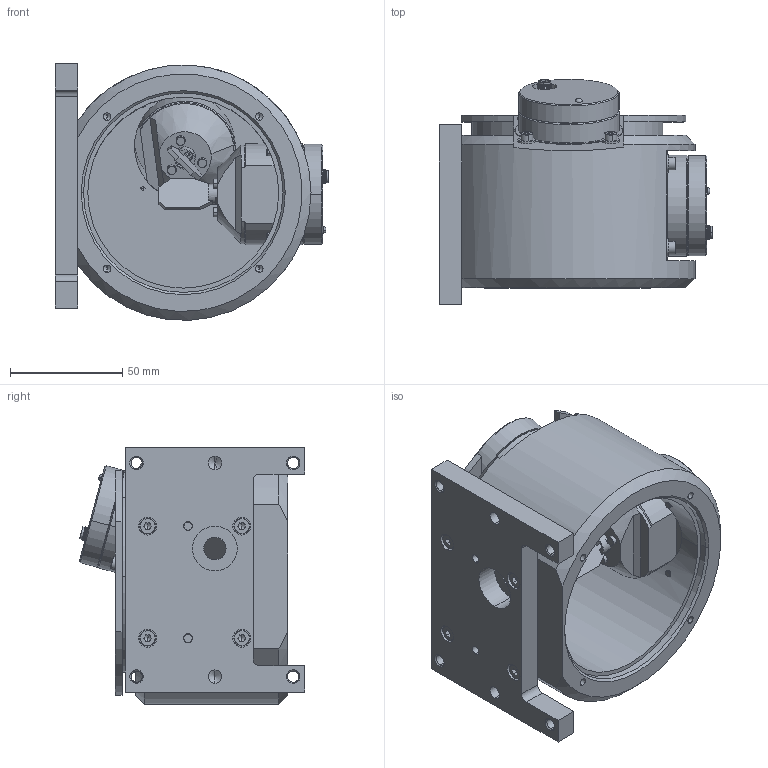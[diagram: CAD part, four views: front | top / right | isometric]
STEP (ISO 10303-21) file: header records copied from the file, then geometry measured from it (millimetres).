
FILE_DESCRIPTION (( 'STEP AP214' ), '1' );
FILE_NAME ('2D_MSA_A10.STEP', '2019-06-06T09:46:32', ( '' ), ( '' ), 'SwSTEP 2.0', 'SolidWorks 2011', '' );
FILE_SCHEMA (( 'AUTOMOTIVE_DESIGN' ));
Length unit declared in the file: millimetre
Products named in the file (14): parallel pin hardened_iso_Parallel Pin ISO 8734 - 4 x 10 - A - St; socket head cap screw_iso_ISO 4762 M3 x 8 --- 8N; plain washer 10673 type snl_iso_ISO 10673-3.2-N; socket head cap screw_iso_ISO 4762 M4 x 12 --- 12C; RTAY_A10; A10_MirrorY; RTAX_A10; socket head cap screw_iso_ISO 4762 M2 x 5 --- 5N; A10_MirrorX; Scanner_Draw06_4; Scanner_Solid; rhothor_montage_plaat_Draw01_3; rhothor_motorblok_A10_Draw02_5; 2D_MSA_A10
Assembly tree (36 placements, depth 3):
  2D_MSA_A10
    socket head cap screw_iso_ISO 4762 M3 x 8 --- 8N  x8
    plain washer 10673 type snl_iso_ISO 10673-3.2-N  x8
    socket head cap screw_iso_ISO 4762 M4 x 12 --- 12C  x4
    rhothor_motorblok_A10_Draw02_5
    rhothor_montage_plaat_Draw01_3
    RTAX_A10
      socket head cap screw_iso_ISO 4762 M2 x 5 --- 5N  x2
      Scanner_Solid
      Scanner_Draw06_4
      A10_MirrorX
    RTAY_A10
      socket head cap screw_iso_ISO 4762 M2 x 5 --- 5N  x2
      Scanner_Solid
      Scanner_Draw06_4
      A10_MirrorY
    parallel pin hardened_iso_Parallel Pin ISO 8734 - 4 x 10 - A - St  x2
Bounding box: 121.8 x 100.44 x 114.48 mm (x, y, z)
Volume: 499953 mm3; surface area: 110100.6 mm2
Topology: 34 solids, 34 shells, 956 faces, 2155 edges, 1288 vertices
Faces by surface type: plane 390, cylinder 288, cone 198, torus 80
Entity records: 14916 total; most frequent: CARTESIAN_POINT 2714, DIRECTION 2312, ORIENTED_EDGE 1954, EDGE_CURVE 977, AXIS2_PLACEMENT_3D 923, VERTEX_POINT 611, EDGE_LOOP 518, LINE 466
